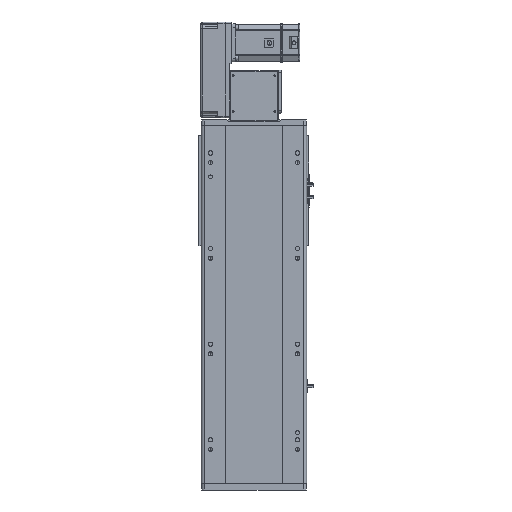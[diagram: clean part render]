
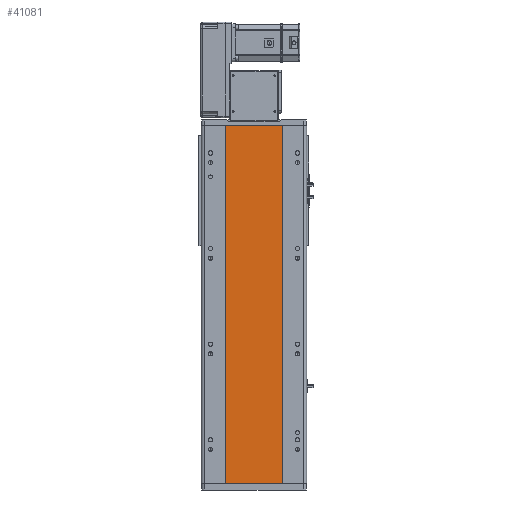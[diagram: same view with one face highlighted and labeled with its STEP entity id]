
A CAD part, front view. The second image highlights one B-rep face of the part: STEP entity #41081.
In plain terms, the highlighted planar face has unit normal (0, -1, 0).
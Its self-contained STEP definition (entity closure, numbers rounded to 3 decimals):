
#4347 = CARTESIAN_POINT ( 'NONE',  ( 59., 1., 374.5 ) ) ;
#4381 = VERTEX_POINT ( 'NONE', #19283 ) ;
#4893 = DIRECTION ( 'NONE',  ( 0., 0., -1. ) ) ;
#5168 = FACE_OUTER_BOUND ( 'NONE', #6251, .T. ) ;
#6251 = EDGE_LOOP ( 'NONE', ( #18306, #15443, #41906, #49487 ) ) ;
#7855 = EDGE_CURVE ( 'NONE', #11335, #11972, #42506, .T. ) ;
#9560 = LINE ( 'NONE', #12741, #34749 ) ;
#10978 = CARTESIAN_POINT ( 'NONE',  ( -59., 1., 374.5 ) ) ;
#11032 = AXIS2_PLACEMENT_3D ( 'NONE', #10978, #46318, #45983 ) ;
#11335 = VERTEX_POINT ( 'NONE', #46638 ) ;
#11972 = VERTEX_POINT ( 'NONE', #4347 ) ;
#12741 = CARTESIAN_POINT ( 'NONE',  ( -59., 1., -374.5 ) ) ;
#12978 = EDGE_CURVE ( 'NONE', #11335, #4381, #35369, .T. ) ;
#13386 = VERTEX_POINT ( 'NONE', #46147 ) ;
#13796 = VECTOR ( 'NONE', #4893, 1000. ) ;
#15443 = ORIENTED_EDGE ( 'NONE', *, *, #42986, .F. ) ;
#18306 = ORIENTED_EDGE ( 'NONE', *, *, #34323, .T. ) ;
#19283 = CARTESIAN_POINT ( 'NONE',  ( -59., 1., -374.5 ) ) ;
#21633 = DIRECTION ( 'NONE',  ( 0., 0., -1. ) ) ;
#24176 = VECTOR ( 'NONE', #31004, 1000. ) ;
#28757 = DIRECTION ( 'NONE',  ( 1., 0., 0. ) ) ;
#29027 = VECTOR ( 'NONE', #21633, 1000. ) ;
#29560 = CARTESIAN_POINT ( 'NONE',  ( 59., 1., 374.5 ) ) ;
#30416 = PLANE ( 'NONE',  #11032 ) ;
#31004 = DIRECTION ( 'NONE',  ( 1., 0., 0. ) ) ;
#34323 = EDGE_CURVE ( 'NONE', #4381, #13386, #9560, .T. ) ;
#34749 = VECTOR ( 'NONE', #28757, 1000. ) ;
#35369 = LINE ( 'NONE', #39852, #13796 ) ;
#39852 = CARTESIAN_POINT ( 'NONE',  ( -59., 1., 374.5 ) ) ;
#41081 = ADVANCED_FACE ( 'NONE', ( #5168 ), #30416, .F. ) ;
#41906 = ORIENTED_EDGE ( 'NONE', *, *, #7855, .F. ) ;
#42430 = CARTESIAN_POINT ( 'NONE',  ( -59., 1., 374.5 ) ) ;
#42506 = LINE ( 'NONE', #42430, #24176 ) ;
#42986 = EDGE_CURVE ( 'NONE', #11972, #13386, #44906, .T. ) ;
#44906 = LINE ( 'NONE', #29560, #29027 ) ;
#45983 = DIRECTION ( 'NONE',  ( -1., 0., 0. ) ) ;
#46147 = CARTESIAN_POINT ( 'NONE',  ( 59., 1., -374.5 ) ) ;
#46318 = DIRECTION ( 'NONE',  ( 0., 1., 0. ) ) ;
#46638 = CARTESIAN_POINT ( 'NONE',  ( -59., 1., 374.5 ) ) ;
#49487 = ORIENTED_EDGE ( 'NONE', *, *, #12978, .T. ) ;
